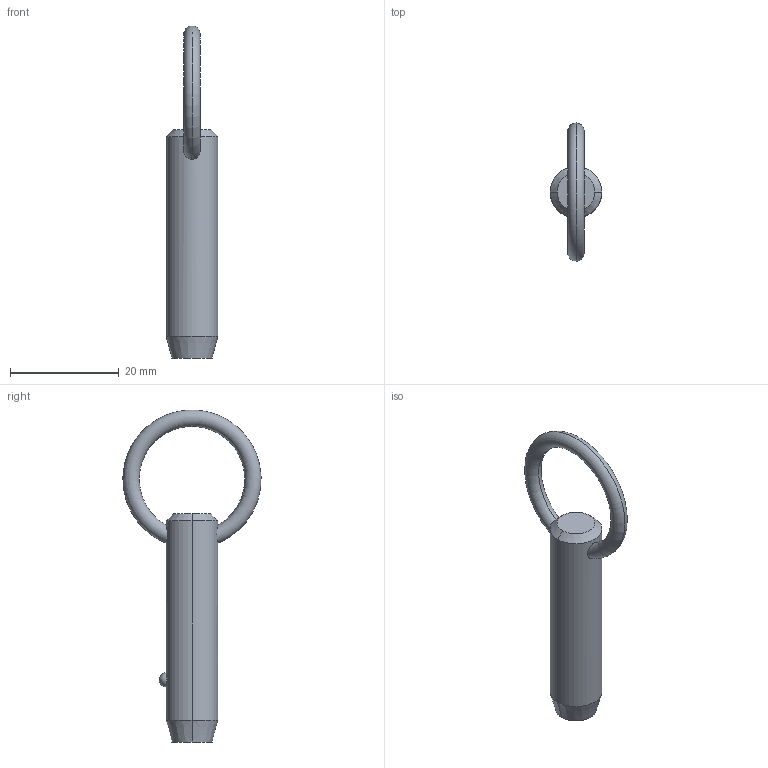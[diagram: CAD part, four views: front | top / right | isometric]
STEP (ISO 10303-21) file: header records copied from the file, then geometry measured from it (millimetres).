
FILE_DESCRIPTION (( 'STEP AP203' ), '1' );
FILE_NAME ('P1250.037-090.step', '2019-07-29T19:58:52', ( '' ), ( '' ), 'SwSTEP 2.0', 'SolidWorks 2017', '' );
FILE_SCHEMA (( 'CONFIG_CONTROL_DESIGN' ));
Length unit declared in the file: millimetre
Products named in the file (1): P1250.037-090
Bounding box: 9.52 x 25.39 x 61 mm (x, y, z)
Volume: 3337.2 mm3; surface area: 1896.8 mm2
Topology: 1 solids, 1 shells, 12 faces, 28 edges, 17 vertices
Faces by surface type: cone 4, torus 2, sphere 2, cylinder 2, plane 2
Entity records: 523 total; most frequent: CARTESIAN_POINT 190, DIRECTION 56, ORIENTED_EDGE 48, AXIS2_PLACEMENT_3D 25, EDGE_CURVE 24, EDGE_LOOP 15, VERTEX_POINT 15, FACE_OUTER_BOUND 12
